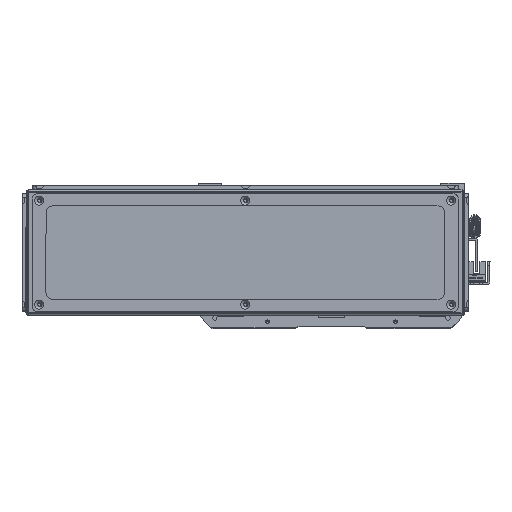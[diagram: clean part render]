
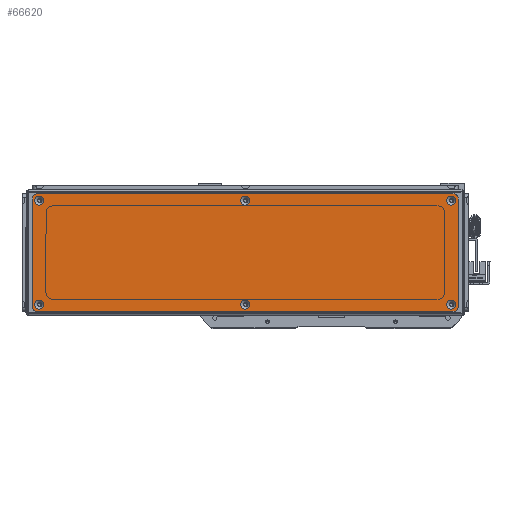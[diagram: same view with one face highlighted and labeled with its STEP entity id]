
A CAD part, front view. The second image highlights one B-rep face of the part: STEP entity #66620.
In plain terms, the highlighted planar face has unit normal (0, -1, 0).
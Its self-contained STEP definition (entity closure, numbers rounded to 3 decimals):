
#2936=FACE_BOUND('',#11553,.T.);
#2937=FACE_BOUND('',#11554,.T.);
#2938=FACE_BOUND('',#11555,.T.);
#2939=FACE_BOUND('',#11556,.T.);
#2940=FACE_BOUND('',#11557,.T.);
#2941=FACE_BOUND('',#11558,.T.);
#4416=CIRCLE('',#71853,3.45);
#4419=CIRCLE('',#71858,3.45);
#4422=CIRCLE('',#71863,3.45);
#4425=CIRCLE('',#71868,3.45);
#4428=CIRCLE('',#71873,3.45);
#4431=CIRCLE('',#71878,3.45);
#4434=CIRCLE('',#71883,3.);
#4436=CIRCLE('',#71886,3.);
#4437=CIRCLE('',#71887,3.);
#4438=CIRCLE('',#71888,3.);
#7727=FACE_OUTER_BOUND('',#11552,.T.);
#11552=EDGE_LOOP('',(#60279,#60280,#60281,#60282,#60283,#60284,#60285,#60286));
#11553=EDGE_LOOP('',(#60287));
#11554=EDGE_LOOP('',(#60288));
#11555=EDGE_LOOP('',(#60289));
#11556=EDGE_LOOP('',(#60290));
#11557=EDGE_LOOP('',(#60291));
#11558=EDGE_LOOP('',(#60292));
#18971=LINE('',#110659,#26435);
#18972=LINE('',#110663,#26436);
#18973=LINE('',#110667,#26437);
#18974=LINE('',#110670,#26438);
#26435=VECTOR('',#88845,10.);
#26436=VECTOR('',#88848,10.);
#26437=VECTOR('',#88851,10.);
#26438=VECTOR('',#88854,10.);
#32691=VERTEX_POINT('',#110589);
#32694=VERTEX_POINT('',#110599);
#32697=VERTEX_POINT('',#110609);
#32700=VERTEX_POINT('',#110619);
#32703=VERTEX_POINT('',#110629);
#32706=VERTEX_POINT('',#110639);
#32709=VERTEX_POINT('',#110649);
#32710=VERTEX_POINT('',#110650);
#32713=VERTEX_POINT('',#110658);
#32714=VERTEX_POINT('',#110660);
#32715=VERTEX_POINT('',#110662);
#32716=VERTEX_POINT('',#110664);
#32717=VERTEX_POINT('',#110666);
#32718=VERTEX_POINT('',#110668);
#41911=EDGE_CURVE('',#32691,#32691,#4416,.T.);
#41916=EDGE_CURVE('',#32694,#32694,#4419,.T.);
#41921=EDGE_CURVE('',#32697,#32697,#4422,.T.);
#41926=EDGE_CURVE('',#32700,#32700,#4425,.T.);
#41931=EDGE_CURVE('',#32703,#32703,#4428,.T.);
#41936=EDGE_CURVE('',#32706,#32706,#4431,.T.);
#41941=EDGE_CURVE('',#32709,#32710,#4434,.T.);
#41945=EDGE_CURVE('',#32709,#32713,#18971,.T.);
#41946=EDGE_CURVE('',#32714,#32713,#4436,.T.);
#41947=EDGE_CURVE('',#32714,#32715,#18972,.T.);
#41948=EDGE_CURVE('',#32716,#32715,#4437,.T.);
#41949=EDGE_CURVE('',#32716,#32717,#18973,.T.);
#41950=EDGE_CURVE('',#32718,#32717,#4438,.T.);
#41951=EDGE_CURVE('',#32718,#32710,#18974,.T.);
#60279=ORIENTED_EDGE('',*,*,#41941,.F.);
#60280=ORIENTED_EDGE('',*,*,#41945,.T.);
#60281=ORIENTED_EDGE('',*,*,#41946,.F.);
#60282=ORIENTED_EDGE('',*,*,#41947,.T.);
#60283=ORIENTED_EDGE('',*,*,#41948,.F.);
#60284=ORIENTED_EDGE('',*,*,#41949,.T.);
#60285=ORIENTED_EDGE('',*,*,#41950,.F.);
#60286=ORIENTED_EDGE('',*,*,#41951,.T.);
#60287=ORIENTED_EDGE('',*,*,#41911,.T.);
#60288=ORIENTED_EDGE('',*,*,#41916,.T.);
#60289=ORIENTED_EDGE('',*,*,#41921,.T.);
#60290=ORIENTED_EDGE('',*,*,#41926,.T.);
#60291=ORIENTED_EDGE('',*,*,#41931,.T.);
#60292=ORIENTED_EDGE('',*,*,#41936,.T.);
#63344=PLANE('',#71885);
#66620=ADVANCED_FACE('',(#7727,#2936,#2937,#2938,#2939,#2940,#2941),#63344,
 .T.);
#71853=AXIS2_PLACEMENT_3D('',#110590,#88765,#88766);
#71858=AXIS2_PLACEMENT_3D('',#110600,#88777,#88778);
#71863=AXIS2_PLACEMENT_3D('',#110610,#88789,#88790);
#71868=AXIS2_PLACEMENT_3D('',#110620,#88801,#88802);
#71873=AXIS2_PLACEMENT_3D('',#110630,#88813,#88814);
#71878=AXIS2_PLACEMENT_3D('',#110640,#88825,#88826);
#71883=AXIS2_PLACEMENT_3D('',#110651,#88837,#88838);
#71885=AXIS2_PLACEMENT_3D('',#110657,#88843,#88844);
#71886=AXIS2_PLACEMENT_3D('',#110661,#88846,#88847);
#71887=AXIS2_PLACEMENT_3D('',#110665,#88849,#88850);
#71888=AXIS2_PLACEMENT_3D('',#110669,#88852,#88853);
#88765=DIRECTION('center_axis',(0.,1.,0.));
#88766=DIRECTION('ref_axis',(1.,0.,0.));
#88777=DIRECTION('center_axis',(0.,1.,0.));
#88778=DIRECTION('ref_axis',(1.,0.,0.));
#88789=DIRECTION('center_axis',(0.,1.,0.));
#88790=DIRECTION('ref_axis',(1.,0.,0.));
#88801=DIRECTION('center_axis',(0.,1.,0.));
#88802=DIRECTION('ref_axis',(1.,0.,0.));
#88813=DIRECTION('center_axis',(0.,1.,0.));
#88814=DIRECTION('ref_axis',(1.,0.,0.));
#88825=DIRECTION('center_axis',(0.,1.,0.));
#88826=DIRECTION('ref_axis',(1.,0.,0.));
#88837=DIRECTION('center_axis',(0.,1.,0.));
#88838=DIRECTION('ref_axis',(-0.707,0.,0.707));
#88843=DIRECTION('center_axis',(0.,-1.,0.));
#88844=DIRECTION('ref_axis',(0.,0.,-1.));
#88845=DIRECTION('',(0.,0.,-1.));
#88846=DIRECTION('center_axis',(0.,1.,0.));
#88847=DIRECTION('ref_axis',(-0.707,0.,-0.707));
#88848=DIRECTION('',(1.,0.,0.));
#88849=DIRECTION('center_axis',(0.,1.,0.));
#88850=DIRECTION('ref_axis',(0.707,0.,-0.707));
#88851=DIRECTION('',(0.,0.,1.));
#88852=DIRECTION('center_axis',(0.,1.,0.));
#88853=DIRECTION('ref_axis',(0.707,0.,0.707));
#88854=DIRECTION('',(-1.,0.,0.));
#110589=CARTESIAN_POINT('',(151.05,-1.5,39.));
#110590=CARTESIAN_POINT('Origin',(154.5,-1.5,39.));
#110599=CARTESIAN_POINT('',(-3.45,-1.5,39.));
#110600=CARTESIAN_POINT('Origin',(0.,-1.5,39.));
#110609=CARTESIAN_POINT('',(-157.95,-1.5,39.));
#110610=CARTESIAN_POINT('Origin',(-154.5,-1.5,39.));
#110619=CARTESIAN_POINT('',(-157.95,-1.5,-39.));
#110620=CARTESIAN_POINT('Origin',(-154.5,-1.5,-39.));
#110629=CARTESIAN_POINT('',(-3.45,-1.5,-39.));
#110630=CARTESIAN_POINT('Origin',(0.,-1.5,-39.));
#110639=CARTESIAN_POINT('',(151.05,-1.5,-39.));
#110640=CARTESIAN_POINT('Origin',(154.5,-1.5,-39.));
#110649=CARTESIAN_POINT('',(-159.5,-1.5,41.));
#110650=CARTESIAN_POINT('',(-156.5,-1.5,44.));
#110651=CARTESIAN_POINT('Origin',(-156.5,-1.5,41.));
#110657=CARTESIAN_POINT('Origin',(0.,-1.5,0.));
#110658=CARTESIAN_POINT('',(-159.5,-1.5,-41.));
#110659=CARTESIAN_POINT('',(-159.5,-1.5,44.));
#110660=CARTESIAN_POINT('',(-156.5,-1.5,-44.));
#110661=CARTESIAN_POINT('Origin',(-156.5,-1.5,-41.));
#110662=CARTESIAN_POINT('',(156.5,-1.5,-44.));
#110663=CARTESIAN_POINT('',(-159.5,-1.5,-44.));
#110664=CARTESIAN_POINT('',(159.5,-1.5,-41.));
#110665=CARTESIAN_POINT('Origin',(156.5,-1.5,-41.));
#110666=CARTESIAN_POINT('',(159.5,-1.5,41.));
#110667=CARTESIAN_POINT('',(159.5,-1.5,-44.));
#110668=CARTESIAN_POINT('',(156.5,-1.5,44.));
#110669=CARTESIAN_POINT('Origin',(156.5,-1.5,41.));
#110670=CARTESIAN_POINT('',(159.5,-1.5,44.));
